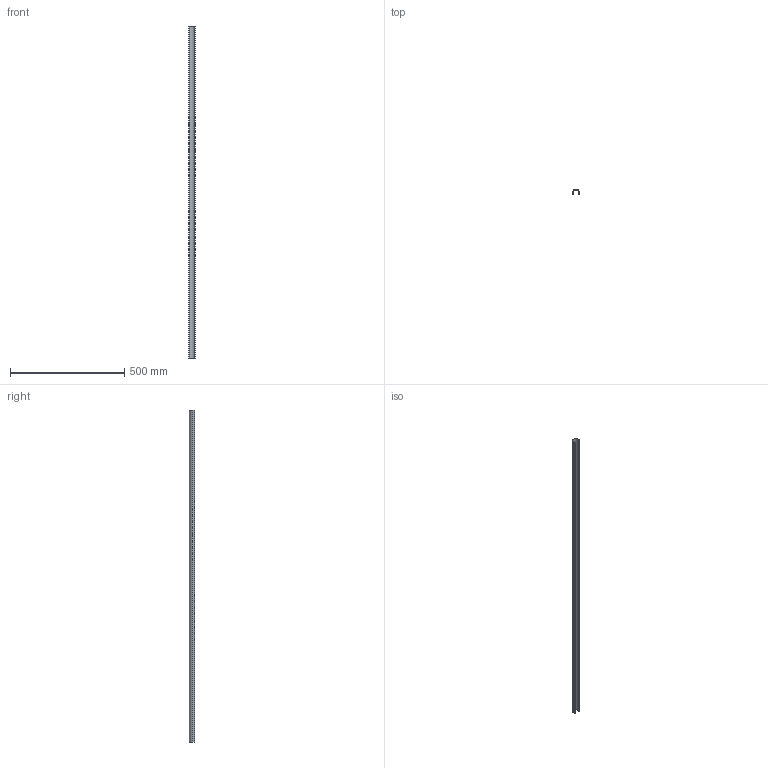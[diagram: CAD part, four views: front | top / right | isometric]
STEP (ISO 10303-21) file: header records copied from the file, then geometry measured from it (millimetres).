
FILE_DESCRIPTION (( 'STEP AP214' ), '1' );
FILE_NAME ('16208899_00_1450mm.STEP', '2022-08-31T04:57:46', ( '' ), ( '' ), 'SwSTEP 2.0', 'SolidWorks 2020', '' );
FILE_SCHEMA (( 'AUTOMOTIVE_DESIGN' ));
Length unit declared in the file: millimetre
Products named in the file (1): 16208899_00_1450mm
Bounding box: 28.5 x 22 x 1450 mm (x, y, z)
Volume: 90112.8 mm3; surface area: 181911.9 mm2
Topology: 1 solids, 1 shells, 23 faces, 63 edges, 42 vertices
Faces by surface type: plane 12, cylinder 11
Entity records: 773 total; most frequent: DIRECTION 133, CARTESIAN_POINT 129, ORIENTED_EDGE 126, EDGE_CURVE 63, AXIS2_PLACEMENT_3D 46, VERTEX_POINT 42, LINE 41, VECTOR 41
